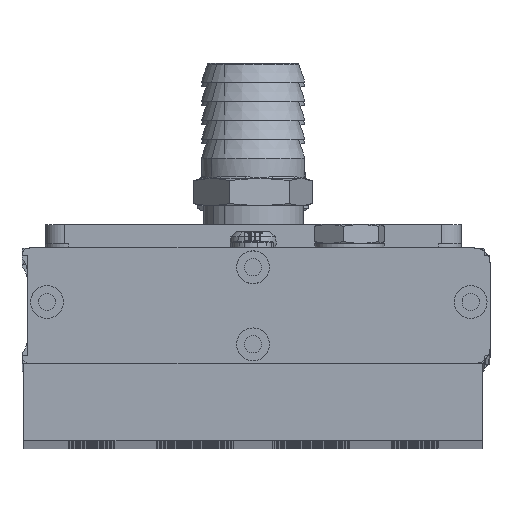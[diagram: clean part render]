
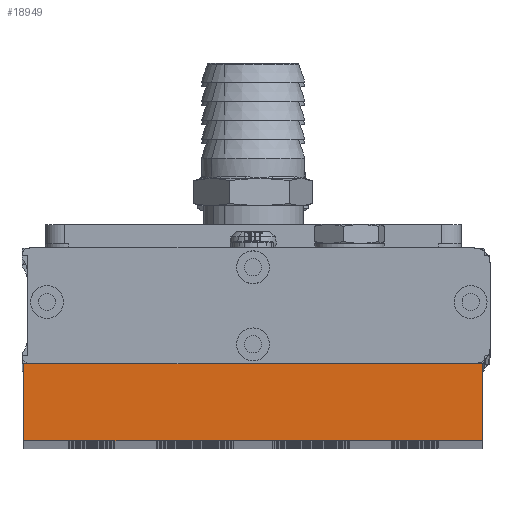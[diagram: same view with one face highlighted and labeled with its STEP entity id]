
A CAD part, top view. The second image highlights one B-rep face of the part: STEP entity #18949.
In plain terms, the highlighted planar face has unit normal (0, 0, 1).
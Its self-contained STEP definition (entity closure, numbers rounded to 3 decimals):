
#309 = DIRECTION ( 'NONE',  ( 1., 0., 0. ) ) ;
#2083 = VECTOR ( 'NONE', #14638, 1000. ) ;
#3772 = CARTESIAN_POINT ( 'NONE',  ( 36.4, -51.3, 622. ) ) ;
#5551 = DIRECTION ( 'NONE',  ( 0., -1., 0. ) ) ;
#5615 = VERTEX_POINT ( 'NONE', #35240 ) ;
#8483 = VERTEX_POINT ( 'NONE', #37362 ) ;
#9604 = DIRECTION ( 'NONE',  ( 1., 0., 0. ) ) ;
#9693 = VERTEX_POINT ( 'NONE', #3772 ) ;
#14638 = DIRECTION ( 'NONE',  ( 0., -1., 0. ) ) ;
#15335 = PLANE ( 'NONE',  #27244 ) ;
#18949 = ADVANCED_FACE ( 'NONE', ( #63634 ), #15335, .F. ) ;
#21359 = CARTESIAN_POINT ( 'NONE',  ( -82.6, -51.3, 622. ) ) ;
#22550 = ORIENTED_EDGE ( 'NONE', *, *, #43917, .T. ) ;
#25955 = CARTESIAN_POINT ( 'NONE',  ( 36.4, -51.3, 622. ) ) ;
#27244 = AXIS2_PLACEMENT_3D ( 'NONE', #21359, #68417, #31579 ) ;
#28574 = EDGE_CURVE ( 'NONE', #9693, #5615, #67386, .T. ) ;
#28616 = LINE ( 'NONE', #36259, #2083 ) ;
#31112 = CARTESIAN_POINT ( 'NONE',  ( -82.6, -71.3, 622. ) ) ;
#31579 = DIRECTION ( 'NONE',  ( 0., 1., 0. ) ) ;
#35240 = CARTESIAN_POINT ( 'NONE',  ( 36.4, -71.3, 622. ) ) ;
#36259 = CARTESIAN_POINT ( 'NONE',  ( -82.6, -51.3, 622. ) ) ;
#37362 = CARTESIAN_POINT ( 'NONE',  ( -82.6, -51.3, 622. ) ) ;
#38412 = ORIENTED_EDGE ( 'NONE', *, *, #65731, .F. ) ;
#41801 = EDGE_CURVE ( 'NONE', #8483, #52197, #28616, .T. ) ;
#43917 = EDGE_CURVE ( 'NONE', #52197, #5615, #50837, .T. ) ;
#44620 = ORIENTED_EDGE ( 'NONE', *, *, #41801, .T. ) ;
#47069 = ORIENTED_EDGE ( 'NONE', *, *, #28574, .F. ) ;
#48118 = CARTESIAN_POINT ( 'NONE',  ( -82.6, -51.3, 622. ) ) ;
#50206 = EDGE_LOOP ( 'NONE', ( #22550, #47069, #38412, #44620 ) ) ;
#50837 = LINE ( 'NONE', #62601, #63152 ) ;
#50873 = VECTOR ( 'NONE', #5551, 1000. ) ;
#52197 = VERTEX_POINT ( 'NONE', #31112 ) ;
#53868 = VECTOR ( 'NONE', #309, 1000. ) ;
#62601 = CARTESIAN_POINT ( 'NONE',  ( -82.6, -71.3, 622. ) ) ;
#63152 = VECTOR ( 'NONE', #9604, 1000. ) ;
#63634 = FACE_OUTER_BOUND ( 'NONE', #50206, .T. ) ;
#63766 = LINE ( 'NONE', #48118, #53868 ) ;
#65731 = EDGE_CURVE ( 'NONE', #8483, #9693, #63766, .T. ) ;
#67386 = LINE ( 'NONE', #25955, #50873 ) ;
#68417 = DIRECTION ( 'NONE',  ( 0., 0., -1. ) ) ;
